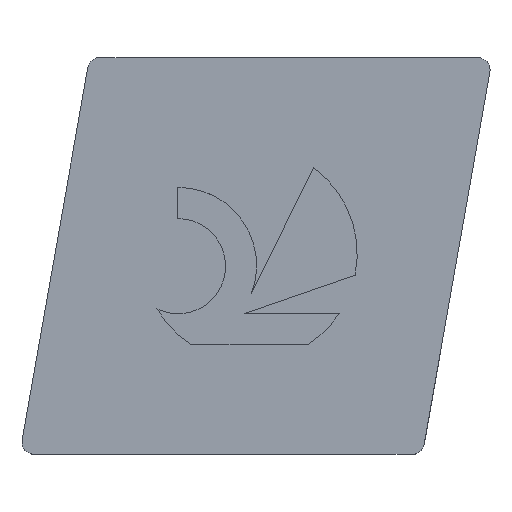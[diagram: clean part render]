
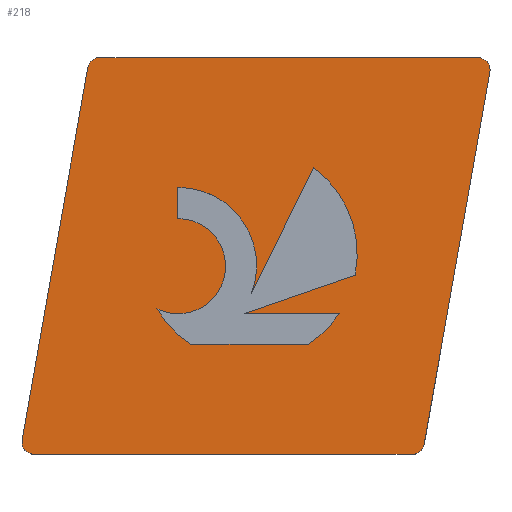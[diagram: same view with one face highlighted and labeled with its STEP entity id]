
A CAD part, top view. The second image highlights one B-rep face of the part: STEP entity #218.
In plain terms, the highlighted planar face has unit normal (0, 0, 1).
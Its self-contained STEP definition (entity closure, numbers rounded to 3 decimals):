
#144=VERTEX_POINT('',#397);
#146=VERTEX_POINT('',#399);
#148=EDGE_CURVE('',#146,#232,#401,.T.);
#150=VERTEX_POINT('',#403);
#154=EDGE_CURVE('',#150,#174,#407,.T.);
#156=EDGE_CURVE('',#174,#294,#409,.T.);
#174=VERTEX_POINT('',#431);
#176=EDGE_CURVE('',#374,#300,#433,.T.);
#204=EDGE_CURVE('',#300,#326,#463,.T.);
#208=EDGE_CURVE('',#224,#282,#468,.T.);
#212=EDGE_CURVE('',#270,#144,#472,.T.);
#218=ADVANCED_FACE('',(#478,#479),#480,.T.);
#224=VERTEX_POINT('',#486);
#230=EDGE_CURVE('',#294,#224,#493,.T.);
#232=VERTEX_POINT('',#495);
#242=EDGE_CURVE('',#248,#346,#506,.T.);
#244=VERTEX_POINT('',#508);
#246=EDGE_CURVE('',#232,#310,#510,.T.);
#248=VERTEX_POINT('',#512);
#250=EDGE_CURVE('',#310,#308,#514,.T.);
#254=EDGE_CURVE('',#308,#318,#518,.T.);
#268=VERTEX_POINT('',#533);
#270=VERTEX_POINT('',#535);
#276=EDGE_CURVE('',#326,#150,#542,.T.);
#278=EDGE_CURVE('',#318,#270,#544,.T.);
#282=VERTEX_POINT('',#548);
#294=VERTEX_POINT('',#561);
#300=VERTEX_POINT('',#567);
#308=VERTEX_POINT('',#575);
#310=VERTEX_POINT('',#577);
#318=VERTEX_POINT('',#587);
#326=VERTEX_POINT('',#597);
#330=EDGE_CURVE('',#282,#374,#601,.T.);
#338=EDGE_CURVE('',#244,#248,#609,.T.);
#346=VERTEX_POINT('',#618);
#354=EDGE_CURVE('',#346,#146,#626,.T.);
#364=EDGE_CURVE('',#268,#244,#637,.T.);
#368=EDGE_CURVE('',#144,#268,#641,.T.);
#374=VERTEX_POINT('',#648);
#397=CARTESIAN_POINT('',(10.232,4.501,0.0));
#399=CARTESIAN_POINT('',(5.064,7.54,0.0));
#401=LINE('',#667,#668);
#403=CARTESIAN_POINT('',(14.662,12.7,0.0));
#407=LINE('',#677,#678);
#409=CIRCLE('',#681,0.397);
#431=CARTESIAN_POINT('',(2.572,12.7,0.0));
#433=CIRCLE('',#713,0.397);
#463=LINE('',#758,#759);
#468=CIRCLE('',#765,0.397);
#472=LINE('',#770,#771);
#478=FACE_BOUND('',#777,.T.);
#479=FACE_OUTER_BOUND('',#778,.T.);
#480=PLANE('',#779);
#486=CARTESIAN_POINT('',(0.082,0.466,0.0));
#493=LINE('',#797,#798);
#495=CARTESIAN_POINT('',(5.064,8.541,0.0));
#506=CIRCLE('',#815,1.522);
#508=CARTESIAN_POINT('',(5.483,3.52,0.0));
#510=CIRCLE('',#820,2.504);
#512=CARTESIAN_POINT('',(4.393,4.658,0.0));
#514=LINE('',#825,#826);
#518=CIRCLE('',#831,3.447);
#533=CARTESIAN_POINT('',(9.24,3.52,0.0));
#535=CARTESIAN_POINT('',(7.186,4.501,0.0));
#542=CIRCLE('',#859,0.397);
#544=LINE('',#862,#863);
#548=CARTESIAN_POINT('',(0.473,0.0,0.0));
#561=CARTESIAN_POINT('',(2.182,12.372,0.0));
#567=CARTESIAN_POINT('',(12.954,0.328,0.0));
#575=CARTESIAN_POINT('',(9.414,9.18,0.0));
#577=CARTESIAN_POINT('',(7.42,5.137,0.0));
#587=CARTESIAN_POINT('',(10.742,5.736,0.0));
#597=CARTESIAN_POINT('',(15.053,12.234,0.0));
#601=LINE('',#936,#937);
#609=CIRCLE('',#950,3.447);
#618=CARTESIAN_POINT('',(5.754,7.38,0.0));
#626=CIRCLE('',#973,1.522);
#637=LINE('',#991,#992);
#641=CIRCLE('',#998,3.447);
#648=CARTESIAN_POINT('',(12.563,0.0,0.0));
#667=CARTESIAN_POINT('',(5.064,7.445,0.0));
#668=VECTOR('',#1019,1.0);
#677=CARTESIAN_POINT('',(14.662,12.7,0.0));
#678=VECTOR('',#1021,1.0);
#681=AXIS2_PLACEMENT_3D('',#1022,#1023,#1024);
#713=AXIS2_PLACEMENT_3D('',#1067,#1068,#1069);
#758=CARTESIAN_POINT('',(12.954,0.328,0.0));
#759=VECTOR('',#1098,1.0);
#765=AXIS2_PLACEMENT_3D('',#1107,#1108,#1109);
#770=CARTESIAN_POINT('',(8.9,4.501,0.0));
#771=VECTOR('',#1110,1.0);
#777=EDGE_LOOP('',(#1112,#1113,#1114,#1115,#1116,#1117,#1118,#1119,#1120,#1121,#1122));
#778=EDGE_LOOP('',(#1123,#1124,#1125,#1126,#1127,#1128,#1129,#1130));
#779=AXIS2_PLACEMENT_3D('',#1131,#1132,#1133);
#797=CARTESIAN_POINT('',(2.182,12.372,0.0));
#798=VECTOR('',#1144,1.0);
#815=AXIS2_PLACEMENT_3D('',#1157,#1158,#1159);
#820=AXIS2_PLACEMENT_3D('',#1160,#1161,#1162);
#825=CARTESIAN_POINT('',(8.672,7.676,0.0));
#826=VECTOR('',#1163,1.0);
#831=AXIS2_PLACEMENT_3D('',#1164,#1165,#1166);
#859=AXIS2_PLACEMENT_3D('',#1186,#1187,#1188);
#862=CARTESIAN_POINT('',(7.643,4.66,0.0));
#863=VECTOR('',#1189,1.0);
#936=CARTESIAN_POINT('',(0.473,0.0,0.0));
#937=VECTOR('',#1245,1.0);
#950=AXIS2_PLACEMENT_3D('',#1248,#1249,#1250);
#973=AXIS2_PLACEMENT_3D('',#1264,#1265,#1266);
#991=CARTESIAN_POINT('',(6.525,3.52,0.0));
#992=VECTOR('',#1278,1.0);
#998=AXIS2_PLACEMENT_3D('',#1282,#1283,#1284);
#1019=DIRECTION('',(0.0,1.0,0.0));
#1021=DIRECTION('',(-1.0,0.0,0.0));
#1022=CARTESIAN_POINT('',(2.572,12.303,0.0));
#1023=DIRECTION('',(0.0,0.0,1.0));
#1024=DIRECTION('',(0.,1.0,0.0));
#1067=CARTESIAN_POINT('',(12.563,0.397,0.0));
#1068=DIRECTION('',(0.0,0.0,1.0));
#1069=DIRECTION('',(0.,-1.0,0.0));
#1098=DIRECTION('',(0.174,0.985,0.0));
#1107=CARTESIAN_POINT('',(0.473,0.397,0.0));
#1108=DIRECTION('',(0.0,0.0,1.0));
#1109=DIRECTION('',(-0.985,0.174,0.0));
#1110=DIRECTION('',(1.0,0.0,0.0));
#1112=ORIENTED_EDGE('',*,*,#148,.T.);
#1113=ORIENTED_EDGE('',*,*,#246,.T.);
#1114=ORIENTED_EDGE('',*,*,#250,.T.);
#1115=ORIENTED_EDGE('',*,*,#254,.T.);
#1116=ORIENTED_EDGE('',*,*,#278,.T.);
#1117=ORIENTED_EDGE('',*,*,#212,.T.);
#1118=ORIENTED_EDGE('',*,*,#368,.T.);
#1119=ORIENTED_EDGE('',*,*,#364,.T.);
#1120=ORIENTED_EDGE('',*,*,#338,.T.);
#1121=ORIENTED_EDGE('',*,*,#242,.T.);
#1122=ORIENTED_EDGE('',*,*,#354,.T.);
#1123=ORIENTED_EDGE('',*,*,#330,.T.);
#1124=ORIENTED_EDGE('',*,*,#176,.T.);
#1125=ORIENTED_EDGE('',*,*,#204,.T.);
#1126=ORIENTED_EDGE('',*,*,#276,.T.);
#1127=ORIENTED_EDGE('',*,*,#154,.T.);
#1128=ORIENTED_EDGE('',*,*,#156,.T.);
#1129=ORIENTED_EDGE('',*,*,#230,.T.);
#1130=ORIENTED_EDGE('',*,*,#208,.T.);
#1131=CARTESIAN_POINT('',(7.568,6.35,0.0));
#1132=DIRECTION('',(0.0,0.0,1.0));
#1133=DIRECTION('',(1.0,0.0,0.0));
#1144=DIRECTION('',(-0.174,-0.985,0.0));
#1157=CARTESIAN_POINT('',(5.073,6.019,0.0));
#1158=DIRECTION('',(0.0,0.0,1.0));
#1159=DIRECTION('',(-0.447,-0.894,0.0));
#1160=CARTESIAN_POINT('',(5.083,6.037,0.0));
#1161=DIRECTION('',(0.0,-0.0,-1.0));
#1162=DIRECTION('',(0.933,-0.359,0.0));
#1163=DIRECTION('',(0.442,0.897,-0.0));
#1164=CARTESIAN_POINT('',(7.361,6.41,0.0));
#1165=DIRECTION('',(0.0,-0.0,-1.0));
#1166=DIRECTION('',(0.981,-0.196,0.0));
#1186=CARTESIAN_POINT('',(14.662,12.303,0.0));
#1187=DIRECTION('',(-0.0,0.0,1.0));
#1188=DIRECTION('',(0.985,-0.174,0.0));
#1189=DIRECTION('',(-0.945,-0.328,0.0));
#1245=DIRECTION('',(1.0,0.0,0.0));
#1248=CARTESIAN_POINT('',(7.361,6.41,0.0));
#1249=DIRECTION('',(-0.0,0.0,-1.0));
#1250=DIRECTION('',(-0.861,-0.508,0.0));
#1264=CARTESIAN_POINT('',(5.073,6.019,0.0));
#1265=DIRECTION('',(0.0,0.0,1.0));
#1266=DIRECTION('',(-0.447,-0.894,0.0));
#1278=DIRECTION('',(-1.0,0.0,0.0));
#1282=CARTESIAN_POINT('',(7.361,6.41,0.0));
#1283=DIRECTION('',(0.0,-0.0,-1.0));
#1284=DIRECTION('',(0.545,-0.838,0.0));
